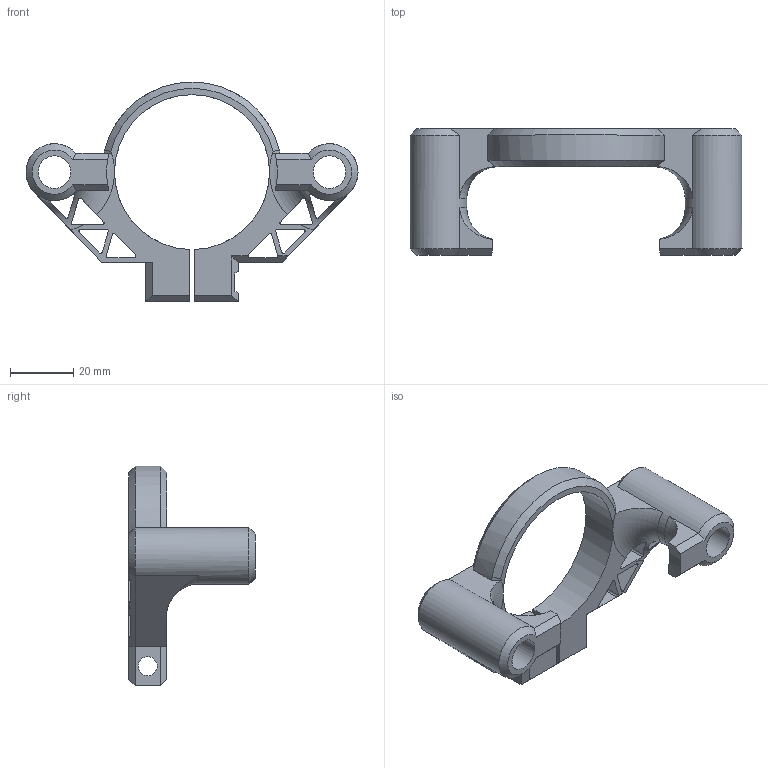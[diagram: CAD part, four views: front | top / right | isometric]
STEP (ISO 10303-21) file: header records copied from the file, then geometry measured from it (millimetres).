
FILE_DESCRIPTION(/* description */ ('STEP AP242','CAx-IF Rec.Pracs.---Representation and Presentation of Product Manufacturing Information (PMI)---4.0---2014-10-13','CAx-IF Rec.Pracs.---3D Tessellated Geometry---0.4---2014-09-14','2;1'),/* implementation_level */ '2;1');
FILE_NAME(/* name */ '61ebd8b1314c275b98759b6f',/* time_stamp */ '2022-01-22T10:13:06+00:00',/* author */ (''),/* organization */ (''),/* preprocessor_version */ 'ST-DEVELOPER v18.101',/* originating_system */ ' ',/* authorisation */ ' ');
FILE_SCHEMA (('AP242_MANAGED_MODEL_BASED_3D_ENGINEERING_MIM_LF { 1 0 10303 442 1 1 4 }'));
Length unit declared in the file: metre
Products named in the file (1): Guide
Bounding box: 105 x 40 x 69.56 mm (x, y, z)
Volume: 31708.3 mm3; surface area: 19313 mm2
Topology: 1 solids, 1 shells, 145 faces, 438 edges, 286 vertices
Faces by surface type: plane 79, cylinder 54, cone 6, torus 4, bspline 2
Full cylindrical faces by diameter (mm): 6 x2, 10.3 x2, 18 x2
Entity records: 5061 total; most frequent: CARTESIAN_POINT 1068, ORIENTED_EDGE 862, DIRECTION 807, EDGE_CURVE 431, VERTEX_POINT 285, AXIS2_PLACEMENT_3D 278, LINE 251, VECTOR 251
